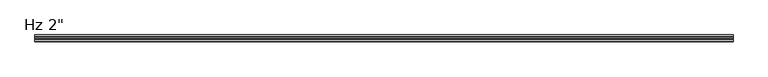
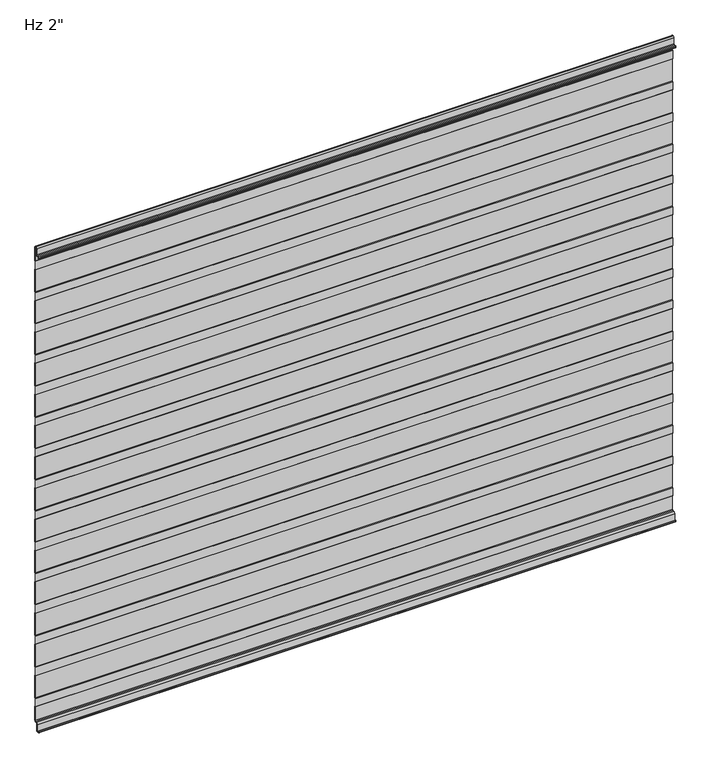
"""IFC4 building model written with IfcOpenShell, lengths in millimetres: plate geometry."""

from ifc_helpers import new_model, si_unit, frame, origin, place, context, project, spatial, polyline, circle_curve, source, transform, mapped, element, save
from ifc_brep_helpers import plane_surface, cylinder_surface, revolved_surface, advanced_brep


def plate_808f4461(model_context):
    return source(origin(), model_context, "Body", "AdvancedBrep", [
        advanced_brep(
        [(-730.0, 0.0, 966.9508592), (-730.0, -1.1911595, 965.8783343), (-730.0, -1.1911595, 946.9802183), (-730.0, 0.0, 945.9076934), (-730.0, 0.0, 891.3282389), (-730.0, -1.1911595, 890.2557141), (-730.0, -1.1911595, 871.357598), (-730.0, 0.0, 870.2850732), (-730.0, 0.0, 815.7056186), (-730.0, -1.1911595, 814.6330938), (-730.0, -1.1911595, 795.7349778), (-730.0, 0.0, 794.6624529), (-730.0, 0.0, 740.0829984), (-730.0, -1.1911595, 739.0104735), (-730.0, -1.1911595, 720.1123575), (-730.0, 0.0, 719.0398327), (-730.0, 0.0, 664.4603781), (-730.0, -1.1911595, 663.3878533), (-730.0, -1.1911595, 644.4897372), (-730.0, 0.0, 643.4172124), (-730.0, 0.0, 588.8377578), (-730.0, -1.1911595, 587.765233), (-730.0, -1.1911595, 568.867117), (-730.0, 0.0, 567.7945921), (-730.0, 0.0, 513.2151376), (-730.0, -1.1911595, 512.1426127), (-730.0, -1.1911595, 493.2444967), (-730.0, 0.0, 492.1719719), (-730.0, 0.0, 437.5925173), (-730.0, -1.1911595, 436.5199925), (-730.0, -1.1911595, 417.6218764), (-730.0, 0.0, 416.5493516), (-730.0, 0.0, 361.9698971), (-730.0, -1.1911595, 360.8973722), (-730.0, -1.1911595, 341.9992562), (-730.0, 0.0, 340.9267313), (-730.0, 0.0, 286.3472768), (-730.0, -1.1911595, 285.274752), (-730.0, -1.1911595, 266.3766359), (-730.0, 0.0, 265.3041111), (-730.0, 0.0, 210.7246565), (-730.0, -1.1911595, 209.6521317), (-730.0, -1.1911595, 190.7540156), (-730.0, 0.0, 189.6814908), (-730.0, 0.0, 135.1020363), (-730.0, -1.1911595, 134.0295114), (-730.0, -1.1911595, 115.1313954), (-730.0, 0.0, 114.0588705), (-730.0, 0.0, 59.479416), (-730.0, -1.1911595, 58.4068912), (-730.0, -1.1911595, 39.5087751), (-730.0, 0.0, 38.4362503), (-730.0, 0.0, 5.8272193), (-730.0, -2.9772904, 2.8499526), (-730.0, -5.2691742, 2.8499526), (-730.0, -8.2464427, -0.1273159), (-730.0, -8.2464427, -15.7237419), (-730.0, -9.8343193, -17.3116185), (-730.0, -12.905868, -17.3116185), (-730.0, -14.4937445, -15.7237419), (-730.0, -14.4937445, -13.3687064), (-730.0, -13.4937445, -13.3687064), (-730.0, -13.4937445, -15.7237419), (-730.0, -12.905868, -16.3116185), (-730.0, -9.8343193, -16.3116185), (-730.0, -9.2464427, -15.7237419), (-730.0, -9.2464427, -0.1273159), (-730.0, -5.2691742, 3.8499526), (-730.0, -2.9772904, 3.8499526), (-730.0, -1.0000218, 5.82722), (-730.0, -1.0, 37.993811), (-730.0, -2.1911595, 39.0663358), (-730.0, -2.1911595, 58.8493305), (-730.0, -1.0, 59.9218553), (-730.0, -1.0, 113.6164312), (-730.0, -2.1911595, 114.6889561), (-730.0, -2.1911595, 134.4719507), (-730.0, -1.0, 135.5444756), (-730.0, -1.0, 189.2390515), (-730.0, -2.1911595, 190.3115763), (-730.0, -2.1911595, 210.094571), (-730.0, -1.0, 211.1670958), (-730.0, -1.0, 264.8616718), (-730.0, -2.1911595, 265.9341966), (-730.0, -2.1911595, 285.7171913), (-730.0, -1.0, 286.7897161), (-730.0, -1.0, 340.484292), (-730.0, -2.1911595, 341.5568169), (-730.0, -2.1911595, 361.3398115), (-730.0, -1.0, 362.4123364), (-730.0, -1.0, 416.1069123), (-730.0, -2.1911595, 417.1794371), (-730.0, -2.1911595, 436.9624318), (-730.0, -1.0, 438.0349566), (-730.0, -1.0, 491.7295325), (-730.0, -2.1911595, 492.8020574), (-730.0, -2.1911595, 512.5850521), (-730.0, -1.0, 513.6575769), (-730.0, -1.0, 567.3521528), (-730.0, -2.1911595, 568.4246776), (-730.0, -2.1911595, 588.2076723), (-730.0, -1.0, 589.2801972), (-730.0, -1.0, 642.9747731), (-730.0, -2.1911595, 644.0472979), (-730.0, -2.1911595, 663.8302926), (-730.0, -1.0, 664.9028174), (-730.0, -1.0, 718.5973933), (-730.0, -2.1911595, 719.6699182), (-730.0, -2.1911595, 739.4529129), (-730.0, -1.0, 740.5254377), (-730.0, -1.0, 794.2200136), (-730.0, -2.1911595, 795.2925384), (-730.0, -2.1911595, 815.0755331), (-730.0, -1.0, 816.148058), (-730.0, -1.0, 869.8426339), (-730.0, -2.1911595, 870.9151587), (-730.0, -2.1911595, 890.6981534), (-730.0, -1.0, 891.7706782), (-730.0, -1.0, 945.4652541), (-730.0, -2.1911595, 946.537779), (-730.0, -2.1911595, 966.3207736), (-730.0, -1.0, 967.3932985), (-730.0, -1.0, 1021.0878744), (-730.0, -2.1911595, 1022.1603992), (-730.0, -2.1911595, 1041.9433939), (-730.0, -1.0, 1043.0159187), (-730.0, -1.0, 1096.7104947), (-730.0, -2.1911595, 1097.7830195), (-730.0, -2.1911595, 1117.5660142), (-730.0, -1.0000044, 1118.6385351), (-730.0, -1.0000044, 1150.8100652), (-730.0, -2.9772729, 1152.7873337), (-730.0, -4.0193715, 1152.7873337), (-730.0, -5.99664, 1150.8100652), (-730.0, -5.99664, 1136.6216801), (-730.0, -8.5845166, 1134.0338036), (-730.0, -12.9049347, 1134.0338037), (-730.0, -13.4939282, 1133.4253365), (-730.0, -13.4939282, 1131.0482432), (-730.0, -14.4934021, 1131.0482432), (-730.0, -14.4934021, 1133.3929042), (-730.0, -12.9049347, 1135.0338037), (-730.0, -8.5845166, 1135.0338036), (-730.0, -6.99664, 1136.6216801), (-730.0, -6.99664, 1150.8100652), (-730.0, -4.0193715, 1153.7873337), (-730.0, -2.9772729, 1153.7873337), (-730.0, -4.4e-06, 1150.8100652), (-730.0, -4.4e-06, 1118.1960958), (-730.0, -1.1911595, 1117.1235749), (-730.0, -1.1911595, 1098.2254588), (-730.0, 0.0, 1097.152934), (-730.0, 0.0, 1042.5734794), (-730.0, -1.1911595, 1041.5009546), (-730.0, -1.1911595, 1022.6028385), (-730.0, 0.0, 1021.5303137), (730.0, 0.0, 966.9508592), (730.0, 0.0, 1021.5303137), (730.0, -1.1911595, 1022.6028385), (730.0, -1.1911595, 1041.5009546), (730.0, 0.0, 1042.5734794), (730.0, 0.0, 1097.152934), (730.0, -1.1911595, 1098.2254588), (730.0, -1.1911595, 1117.1235749), (730.0, -4.4e-06, 1118.1960958), (730.0, -4.4e-06, 1150.8100652), (730.0, -2.9772729, 1153.7873337), (730.0, -4.0193715, 1153.7873337), (730.0, -6.99664, 1150.8100652), (730.0, -6.99664, 1136.6216801), (730.0, -8.5845166, 1135.0338036), (730.0, -12.9049347, 1135.0338036), (730.0, -14.4934021, 1133.3929042), (730.0, -14.4934021, 1131.0482432), (730.0, -13.4939282, 1131.0482432), (730.0, -13.4939282, 1133.4253365), (730.0, -12.9049347, 1134.0338037), (730.0, -8.5845166, 1134.0338037), (730.0, -5.99664, 1136.6216801), (730.0, -5.99664, 1150.8100652), (730.0, -4.0193715, 1152.7873337), (730.0, -2.9772729, 1152.7873337), (730.0, -1.0000044, 1150.8100652), (730.0, -1.0000044, 1118.6385351), (730.0, -2.1911595, 1117.5660142), (730.0, -2.1911595, 1097.7830195), (730.0, -1.0, 1096.7104947), (730.0, -1.0, 1043.0159187), (730.0, -2.1911595, 1041.9433939), (730.0, -2.1911595, 1022.1603992), (730.0, -1.0, 1021.0878744), (730.0, -1.0, 967.3932985), (730.0, -2.1911595, 966.3207736), (730.0, -2.1911595, 946.537779), (730.0, -1.0, 945.4652541), (730.0, -1.0, 891.7706782), (730.0, -2.1911595, 890.6981534), (730.0, -2.1911595, 870.9151587), (730.0, -1.0, 869.8426339), (730.0, -1.0, 816.148058), (730.0, -2.1911595, 815.0755331), (730.0, -2.1911595, 795.2925384), (730.0, -1.0, 794.2200136), (730.0, -1.0, 740.5254377), (730.0, -2.1911595, 739.4529129), (730.0, -2.1911595, 719.6699182), (730.0, -1.0, 718.5973933), (730.0, -1.0, 664.9028174), (730.0, -2.1911595, 663.8302926), (730.0, -2.1911595, 644.0472979), (730.0, -1.0, 642.9747731), (730.0, -1.0, 589.2801972), (730.0, -2.1911595, 588.2076723), (730.0, -2.1911595, 568.4246776), (730.0, -1.0, 567.3521528), (730.0, -1.0, 513.6575769), (730.0, -2.1911595, 512.5850521), (730.0, -2.1911595, 492.8020574), (730.0, -1.0, 491.7295325), (730.0, -1.0, 438.0349566), (730.0, -2.1911595, 436.9624318), (730.0, -2.1911595, 417.1794371), (730.0, -1.0, 416.1069123), (730.0, -1.0, 362.4123364), (730.0, -2.1911595, 361.3398115), (730.0, -2.1911595, 341.5568169), (730.0, -1.0, 340.484292), (730.0, -1.0, 286.7897161), (730.0, -2.1911595, 285.7171913), (730.0, -2.1911595, 265.9341966), (730.0, -1.0, 264.8616718), (730.0, -1.0, 211.1670958), (730.0, -2.1911595, 210.094571), (730.0, -2.1911595, 190.3115763), (730.0, -1.0, 189.2390515), (730.0, -1.0, 135.5444756), (730.0, -2.1911595, 134.4719507), (730.0, -2.1911595, 114.6889561), (730.0, -1.0, 113.6164312), (730.0, -1.0, 59.9218553), (730.0, -2.1911595, 58.8493305), (730.0, -2.1911595, 39.0663358), (730.0, -1.0, 37.993811), (730.0, -1.0, 5.82722), (730.0, -2.9772904, 3.8499526), (730.0, -5.2691742, 3.8499526), (730.0, -9.2464427, -0.1273159), (730.0, -9.2464427, -15.7237419), (730.0, -9.8343193, -16.3116185), (730.0, -12.905868, -16.3116185), (730.0, -13.4937445, -15.7237419), (730.0, -13.4937445, -13.3687064), (730.0, -14.4937445, -13.3687064), (730.0, -14.4937445, -15.7237419), (730.0, -12.905868, -17.3116185), (730.0, -9.8343193, -17.3116185), (730.0, -8.2464427, -15.7237419), (730.0, -8.2464427, -0.1273159), (730.0, -5.2691742, 2.8499526), (730.0, -2.9772904, 2.8499526), (730.0, -2.18e-05, 5.8272193), (730.0, 0.0, 38.4362503), (730.0, -1.1911595, 39.5087751), (730.0, -1.1911595, 58.4068912), (730.0, 0.0, 59.479416), (730.0, 0.0, 114.0588705), (730.0, -1.1911595, 115.1313954), (730.0, -1.1911595, 134.0295114), (730.0, 0.0, 135.1020363), (730.0, 0.0, 189.6814908), (730.0, -1.1911595, 190.7540156), (730.0, -1.1911595, 209.6521317), (730.0, 0.0, 210.7246565), (730.0, 0.0, 265.3041111), (730.0, -1.1911595, 266.3766359), (730.0, -1.1911595, 285.274752), (730.0, 0.0, 286.3472768), (730.0, 0.0, 340.9267313), (730.0, -1.1911595, 341.9992562), (730.0, -1.1911595, 360.8973722), (730.0, 0.0, 361.9698971), (730.0, 0.0, 416.5493516), (730.0, -1.1911595, 417.6218764), (730.0, -1.1911595, 436.5199925), (730.0, 0.0, 437.5925173), (730.0, 0.0, 492.1719719), (730.0, -1.1911595, 493.2444967), (730.0, -1.1911595, 512.1426127), (730.0, 0.0, 513.2151376), (730.0, 0.0, 567.7945921), (730.0, -1.1911595, 568.867117), (730.0, -1.1911595, 587.765233), (730.0, 0.0, 588.8377578), (730.0, 0.0, 643.4172124), (730.0, -1.1911595, 644.4897372), (730.0, -1.1911595, 663.3878533), (730.0, 0.0, 664.4603781), (730.0, 0.0, 719.0398327), (730.0, -1.1911595, 720.1123575), (730.0, -1.1911595, 739.0104735), (730.0, 0.0, 740.0829984), (730.0, 0.0, 794.6624529), (730.0, -1.1911595, 795.7349778), (730.0, -1.1911595, 814.6330938), (730.0, 0.0, 815.7056186), (730.0, 0.0, 870.2850732), (730.0, -1.1911595, 871.357598), (730.0, -1.1911595, 890.2557141), (730.0, 0.0, 891.3282389), (730.0, 0.0, 945.9076934), (730.0, -1.1911595, 946.9802183), (730.0, -1.1911595, 965.8783343)],
        [
            (0, 1),
            (1, 2),
            (2, 3),
            (3, 4),
            (4, 5),
            (5, 6),
            (6, 7),
            (7, 8),
            (8, 9),
            (9, 10),
            (10, 11),
            (11, 12),
            (12, 13),
            (13, 14),
            (14, 15),
            (15, 16),
            (16, 17),
            (17, 18),
            (18, 19),
            (19, 20),
            (20, 21),
            (21, 22),
            (22, 23),
            (23, 24),
            (24, 25),
            (25, 26),
            (26, 27),
            (27, 28),
            (28, 29),
            (29, 30),
            (30, 31),
            (31, 32),
            (32, 33),
            (33, 34),
            (34, 35),
            (35, 36),
            (36, 37),
            (37, 38),
            (38, 39),
            (39, 40),
            (40, 41),
            (41, 42),
            (42, 43),
            (43, 44),
            (44, 45),
            (45, 46),
            (46, 47),
            (47, 48),
            (48, 49),
            (49, 50),
            (50, 51),
            (51, 52),
            (52, 53, circle_curve(frame((-730.0, -2.9772904, 5.8272211), z_axis=(-1.0, 0.0, 0.0), x_axis=(0.0, 1.0, 0.0)), 2.9772685)),
            (53, 54),
            (54, 55, circle_curve(frame((-730.0, -5.2691742, -0.1273159), z_axis=(1.0, 0.0, 0.0), x_axis=(0.0, 1.0, 0.0)), 2.9772685)),
            (55, 56),
            (56, 57, circle_curve(frame((-730.0, -9.8343193, -15.7237419), z_axis=(-1.0, 0.0, 0.0), x_axis=(0.0, 1.0, 0.0)), 1.5878765)),
            (57, 58),
            (58, 59, circle_curve(frame((-730.0, -12.905868, -15.7237419), z_axis=(-1.0, 0.0, 0.0), x_axis=(0.0, 1.0, 0.0)), 1.5878765)),
            (59, 60),
            (60, 61),
            (61, 62),
            (62, 63, circle_curve(frame((-730.0, -12.905868, -15.7237419), z_axis=(1.0, 0.0, 0.0), x_axis=(0.0, 1.0, 0.0)), 0.5878765)),
            (63, 64),
            (64, 65, circle_curve(frame((-730.0, -9.8343193, -15.7237419), z_axis=(1.0, 0.0, 0.0), x_axis=(0.0, 1.0, 0.0)), 0.5878765)),
            (65, 66),
            (66, 67, circle_curve(frame((-730.0, -5.2691742, -0.1273159), z_axis=(-1.0, 0.0, 0.0), x_axis=(0.0, 1.0, 0.0)), 3.9772685)),
            (67, 68),
            (68, 69, circle_curve(frame((-730.0, -2.9772904, 5.8272212), z_axis=(1.0, 0.0, 0.0), x_axis=(0.0, 1.0, 0.0)), 1.9772685)),
            (69, 70),
            (70, 71),
            (71, 72),
            (72, 73),
            (73, 74),
            (74, 75),
            (75, 76),
            (76, 77),
            (77, 78),
            (78, 79),
            (79, 80),
            (80, 81),
            (81, 82),
            (82, 83),
            (83, 84),
            (84, 85),
            (85, 86),
            (86, 87),
            (87, 88),
            (88, 89),
            (89, 90),
            (90, 91),
            (91, 92),
            (92, 93),
            (93, 94),
            (94, 95),
            (95, 96),
            (96, 97),
            (97, 98),
            (98, 99),
            (99, 100),
            (100, 101),
            (101, 102),
            (102, 103),
            (103, 104),
            (104, 105),
            (105, 106),
            (106, 107),
            (107, 108),
            (108, 109),
            (109, 110),
            (110, 111),
            (111, 112),
            (112, 113),
            (113, 114),
            (114, 115),
            (115, 116),
            (116, 117),
            (117, 118),
            (118, 119),
            (119, 120),
            (120, 121),
            (121, 122),
            (122, 123),
            (123, 124),
            (124, 125),
            (125, 126),
            (126, 127),
            (127, 128),
            (128, 129),
            (129, 130),
            (130, 131, circle_curve(frame((-730.0, -2.9772729, 1150.8100652), z_axis=(1.0, 0.0, 0.0), x_axis=(0.0, 1.0, 0.0)), 1.9772685)),
            (131, 132),
            (132, 133, circle_curve(frame((-730.0, -4.0193715, 1150.8100652), z_axis=(1.0, 0.0, 0.0), x_axis=(0.0, 1.0, 0.0)), 1.9772685)),
            (133, 134),
            (134, 135, circle_curve(frame((-730.0, -8.5845166, 1136.6216801), z_axis=(-1.0, 0.0, 0.0), x_axis=(0.0, 1.0, 0.0)), 2.5878765)),
            (135, 136),
            (136, 137, circle_curve(frame((-730.0, -12.9049347, 1133.4444985), z_axis=(1.0, 0.0, 0.0), x_axis=(0.0, 1.0, 0.0)), 0.5893052)),
            (137, 138),
            (138, 139),
            (139, 140),
            (140, 141, circle_curve(frame((-730.0, -12.9049347, 1133.4444985), z_axis=(-1.0, 0.0, 0.0), x_axis=(0.0, 1.0, 0.0)), 1.5893052)),
            (141, 142),
            (142, 143, circle_curve(frame((-730.0, -8.5845166, 1136.6216801), z_axis=(1.0, 0.0, 0.0), x_axis=(0.0, 1.0, 0.0)), 1.5878765)),
            (143, 144),
            (144, 145, circle_curve(frame((-730.0, -4.0193715, 1150.8100652), z_axis=(-1.0, 0.0, 0.0), x_axis=(0.0, 1.0, 0.0)), 2.9772685)),
            (145, 146),
            (146, 147, circle_curve(frame((-730.0, -2.9772729, 1150.8100652), z_axis=(-1.0, 0.0, 0.0), x_axis=(0.0, 1.0, 0.0)), 2.9772685)),
            (147, 148),
            (148, 149),
            (149, 150),
            (150, 151),
            (151, 152),
            (152, 153),
            (153, 154),
            (154, 155),
            (155, 0),
            (156, 157),
            (157, 158),
            (158, 159),
            (159, 160),
            (160, 161),
            (161, 162),
            (162, 163),
            (163, 164),
            (164, 165),
            (165, 166, circle_curve(frame((730.0, -2.9772729, 1150.8100652), z_axis=(1.0, 0.0, 0.0), x_axis=(0.0, 1.0, 0.0)), 2.9772685)),
            (166, 167),
            (167, 168, circle_curve(frame((730.0, -4.0193715, 1150.8100652), z_axis=(1.0, 0.0, 0.0), x_axis=(0.0, 1.0, 0.0)), 2.9772685)),
            (168, 169),
            (169, 170, circle_curve(frame((730.0, -8.5845166, 1136.6216801), z_axis=(-1.0, 0.0, 0.0), x_axis=(0.0, 1.0, 0.0)), 1.5878765)),
            (170, 171),
            (171, 172, circle_curve(frame((730.0, -12.9049347, 1133.4444985), z_axis=(1.0, 0.0, 0.0), x_axis=(0.0, 1.0, 0.0)), 1.5893052)),
            (172, 173),
            (173, 174),
            (174, 175),
            (175, 176, circle_curve(frame((730.0, -12.9049347, 1133.4444985), z_axis=(-1.0, 0.0, 0.0), x_axis=(0.0, 1.0, 0.0)), 0.5893052)),
            (176, 177),
            (177, 178, circle_curve(frame((730.0, -8.5845166, 1136.6216801), z_axis=(1.0, 0.0, 0.0), x_axis=(0.0, 1.0, 0.0)), 2.5878765)),
            (178, 179),
            (179, 180, circle_curve(frame((730.0, -4.0193715, 1150.8100652), z_axis=(-1.0, 0.0, 0.0), x_axis=(0.0, 1.0, 0.0)), 1.9772685)),
            (180, 181),
            (181, 182, circle_curve(frame((730.0, -2.9772729, 1150.8100652), z_axis=(-1.0, 0.0, 0.0), x_axis=(0.0, 1.0, 0.0)), 1.9772685)),
            (182, 183),
            (183, 184),
            (184, 185),
            (185, 186),
            (186, 187),
            (187, 188),
            (188, 189),
            (189, 190),
            (190, 191),
            (191, 192),
            (192, 193),
            (193, 194),
            (194, 195),
            (195, 196),
            (196, 197),
            (197, 198),
            (198, 199),
            (199, 200),
            (200, 201),
            (201, 202),
            (202, 203),
            (203, 204),
            (204, 205),
            (205, 206),
            (206, 207),
            (207, 208),
            (208, 209),
            (209, 210),
            (210, 211),
            (211, 212),
            (212, 213),
            (213, 214),
            (214, 215),
            (215, 216),
            (216, 217),
            (217, 218),
            (218, 219),
            (219, 220),
            (220, 221),
            (221, 222),
            (222, 223),
            (223, 224),
            (224, 225),
            (225, 226),
            (226, 227),
            (227, 228),
            (228, 229),
            (229, 230),
            (230, 231),
            (231, 232),
            (232, 233),
            (233, 234),
            (234, 235),
            (235, 236),
            (236, 237),
            (237, 238),
            (238, 239),
            (239, 240),
            (240, 241),
            (241, 242),
            (242, 243),
            (243, 244, circle_curve(frame((730.0, -2.9772904, 5.8272212), z_axis=(-1.0, 0.0, 0.0), x_axis=(0.0, 1.0, 0.0)), 1.9772685)),
            (244, 245),
            (245, 246, circle_curve(frame((730.0, -5.2691742, -0.1273159), z_axis=(1.0, 0.0, 0.0), x_axis=(0.0, 1.0, 0.0)), 3.9772685)),
            (246, 247),
            (247, 248, circle_curve(frame((730.0, -9.8343193, -15.7237419), z_axis=(-1.0, 0.0, 0.0), x_axis=(0.0, 1.0, 0.0)), 0.5878765)),
            (248, 249),
            (249, 250, circle_curve(frame((730.0, -12.905868, -15.7237419), z_axis=(-1.0, 0.0, 0.0), x_axis=(0.0, 1.0, 0.0)), 0.5878765)),
            (250, 251),
            (251, 252),
            (252, 253),
            (253, 254, circle_curve(frame((730.0, -12.905868, -15.7237419), z_axis=(1.0, 0.0, 0.0), x_axis=(0.0, 1.0, 0.0)), 1.5878765)),
            (254, 255),
            (255, 256, circle_curve(frame((730.0, -9.8343193, -15.7237419), z_axis=(1.0, 0.0, 0.0), x_axis=(0.0, 1.0, 0.0)), 1.5878765)),
            (256, 257),
            (257, 258, circle_curve(frame((730.0, -5.2691742, -0.1273159), z_axis=(-1.0, 0.0, 0.0), x_axis=(0.0, 1.0, 0.0)), 2.9772685)),
            (258, 259),
            (259, 260, circle_curve(frame((730.0, -2.9772904, 5.8272211), z_axis=(1.0, 0.0, 0.0), x_axis=(0.0, 1.0, 0.0)), 2.9772685)),
            (260, 261),
            (261, 262),
            (262, 263),
            (263, 264),
            (264, 265),
            (265, 266),
            (266, 267),
            (267, 268),
            (268, 269),
            (269, 270),
            (270, 271),
            (271, 272),
            (272, 273),
            (273, 274),
            (274, 275),
            (275, 276),
            (276, 277),
            (277, 278),
            (278, 279),
            (279, 280),
            (280, 281),
            (281, 282),
            (282, 283),
            (283, 284),
            (284, 285),
            (285, 286),
            (286, 287),
            (287, 288),
            (288, 289),
            (289, 290),
            (290, 291),
            (291, 292),
            (292, 293),
            (293, 294),
            (294, 295),
            (295, 296),
            (296, 297),
            (297, 298),
            (298, 299),
            (299, 300),
            (300, 301),
            (301, 302),
            (302, 303),
            (303, 304),
            (304, 305),
            (305, 306),
            (306, 307),
            (307, 308),
            (308, 309),
            (309, 310),
            (310, 311),
            (311, 156),
            (155, 157),
            (156, 0),
            (154, 158),
            (153, 159),
            (152, 160),
            (151, 161),
            (150, 162),
            (149, 163),
            (148, 164),
            (147, 165),
            (146, 166),
            (145, 167),
            (144, 168),
            (143, 169),
            (142, 170),
            (141, 171),
            (140, 172),
            (139, 173),
            (138, 174),
            (137, 175),
            (136, 176),
            (135, 177),
            (134, 178),
            (133, 179),
            (132, 180),
            (131, 181),
            (130, 182),
            (129, 183),
            (128, 184),
            (127, 185),
            (126, 186),
            (125, 187),
            (124, 188),
            (123, 189),
            (122, 190),
            (121, 191),
            (120, 192),
            (119, 193),
            (118, 194),
            (117, 195),
            (116, 196),
            (115, 197),
            (114, 198),
            (113, 199),
            (112, 200),
            (111, 201),
            (110, 202),
            (109, 203),
            (108, 204),
            (107, 205),
            (106, 206),
            (105, 207),
            (104, 208),
            (103, 209),
            (102, 210),
            (101, 211),
            (100, 212),
            (99, 213),
            (98, 214),
            (97, 215),
            (96, 216),
            (95, 217),
            (94, 218),
            (93, 219),
            (92, 220),
            (91, 221),
            (90, 222),
            (89, 223),
            (88, 224),
            (87, 225),
            (86, 226),
            (85, 227),
            (84, 228),
            (83, 229),
            (82, 230),
            (81, 231),
            (80, 232),
            (79, 233),
            (78, 234),
            (77, 235),
            (76, 236),
            (75, 237),
            (74, 238),
            (73, 239),
            (72, 240),
            (71, 241),
            (70, 242),
            (69, 243),
            (68, 244),
            (67, 245),
            (66, 246),
            (65, 247),
            (64, 248),
            (63, 249),
            (62, 250),
            (61, 251),
            (60, 252),
            (59, 253),
            (58, 254),
            (57, 255),
            (56, 256),
            (55, 257),
            (54, 258),
            (53, 259),
            (52, 260),
            (51, 261),
            (50, 262),
            (49, 263),
            (48, 264),
            (47, 265),
            (46, 266),
            (45, 267),
            (44, 268),
            (43, 269),
            (42, 270),
            (41, 271),
            (40, 272),
            (39, 273),
            (38, 274),
            (37, 275),
            (36, 276),
            (35, 277),
            (34, 278),
            (33, 279),
            (32, 280),
            (31, 281),
            (30, 282),
            (29, 283),
            (28, 284),
            (27, 285),
            (26, 286),
            (25, 287),
            (24, 288),
            (23, 289),
            (22, 290),
            (21, 291),
            (20, 292),
            (19, 293),
            (18, 294),
            (17, 295),
            (16, 296),
            (15, 297),
            (14, 298),
            (13, 299),
            (12, 300),
            (11, 301),
            (10, 302),
            (9, 303),
            (8, 304),
            (7, 305),
            (6, 306),
            (5, 307),
            (4, 308),
            (3, 309),
            (2, 310),
            (1, 311),
        ],
        [
            plane_surface(frame((-730.0, 0.0, 576.2625), z_axis=(-1.0, 0.0, 0.0), x_axis=(0.0, 1.0, 0.0))),
            plane_surface(frame((730.0, 0.0, 576.2625), z_axis=(1.0, 0.0, 0.0), x_axis=(0.0, 1.0, 0.0))),
            plane_surface(frame((-730.0, 0.0, 966.9508592), z_axis=(0.0, 1.0, 0.0), x_axis=(1.0, 0.0, 0.0))),
            plane_surface(frame((-730.0, 0.0, 1021.5303137), z_axis=(0.0, 0.6691306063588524, 0.7431448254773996), x_axis=(1.0, 0.0, 0.0))),
            plane_surface(frame((-730.0, -1.1911595, 1022.6028385), z_axis=(0.0, 1.0, 0.0), x_axis=(1.0, 0.0, 0.0))),
            plane_surface(frame((-730.0, -1.1911595, 1041.5009546), z_axis=(0.0, 0.6691306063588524, -0.7431448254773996), x_axis=(1.0, 0.0, 0.0))),
            plane_surface(frame((-730.0, 0.0, 1042.5734794), z_axis=(0.0, 1.0, 0.0), x_axis=(1.0, 0.0, 0.0))),
            plane_surface(frame((-730.0, 0.0, 1097.152934), z_axis=(0.0, 0.6691306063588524, 0.7431448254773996), x_axis=(1.0, 0.0, 0.0))),
            plane_surface(frame((-730.0, -1.1911595, 1098.2254588), z_axis=(0.0, 1.0, 0.0), x_axis=(1.0, 0.0, 0.0))),
            plane_surface(frame((-730.0, -1.1911595, 1117.1235749), z_axis=(0.0, 0.6691306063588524, -0.7431448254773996), x_axis=(1.0, 0.0, 0.0))),
            plane_surface(frame((-730.0, -4.4e-06, 1118.1960958), z_axis=(0.0, 1.0, 0.0), x_axis=(1.0, 0.0, 0.0))),
            cylinder_surface(frame((-730.0, -2.9772729, 1150.8100652), z_axis=(-1.0, 0.0, 0.0), x_axis=(0.0, 1.0, 0.0)), 2.9772685),
            plane_surface(frame((-730.0, -2.9772729, 1153.7873337), z_axis=(0.0, 0.0, 1.0), x_axis=(1.0, 0.0, 0.0))),
            cylinder_surface(frame((-730.0, -4.0193715, 1150.8100652), z_axis=(-1.0, 0.0, 0.0), x_axis=(0.0, 1.0, 0.0)), 2.9772685),
            plane_surface(frame((-730.0, -6.99664, 1150.8100652), z_axis=(0.0, -1.0, 0.0), x_axis=(1.0, 0.0, 0.0))),
            revolved_surface(polyline([(730.0, -6.9966401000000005, 1136.6216801), (-730.0, -6.9966401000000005, 1136.6216801)]), (-730.0, -8.5845166, 1136.6216801), (1.0, 0.0, 0.0)),
            plane_surface(frame((-730.0, -8.5845166, 1135.0338036), z_axis=(0.0, 0.0, 1.0), x_axis=(1.0, 0.0, 0.0))),
            cylinder_surface(frame((-730.0, -12.9049347, 1133.4444985), z_axis=(-1.0, 0.0, 0.0), x_axis=(0.0, 1.0, 0.0)), 1.5893052),
            plane_surface(frame((-730.0, -14.4934021, 1133.3929042), z_axis=(0.0, -1.0, 0.0), x_axis=(1.0, 0.0, 0.0))),
            plane_surface(frame((-730.0, -14.4934021, 1131.0482432), z_axis=(0.0, 0.0, -1.0), x_axis=(1.0, 0.0, 0.0))),
            plane_surface(frame((-730.0, -13.4939282, 1131.0482432), z_axis=(0.0, 1.0, 0.0), x_axis=(1.0, 0.0, 0.0))),
            revolved_surface(polyline([(730.0, -12.3156295, 1133.4444985), (-730.0, -12.3156295, 1133.4444985)]), (-730.0, -12.9049347, 1133.4444985), (1.0, 0.0, 0.0)),
            plane_surface(frame((-730.0, -12.9049347, 1134.0338037), z_axis=(0.0, 0.0, -1.0), x_axis=(1.0, 0.0, 0.0))),
            cylinder_surface(frame((-730.0, -8.5845166, 1136.6216801), z_axis=(-1.0, 0.0, 0.0), x_axis=(0.0, 1.0, 0.0)), 2.5878765),
            plane_surface(frame((-730.0, -5.99664, 1136.6216801), z_axis=(0.0, 1.0, 0.0), x_axis=(1.0, 0.0, 0.0))),
            revolved_surface(polyline([(730.0, -2.042103, 1150.8100652), (-730.0, -2.042103, 1150.8100652)]), (-730.0, -4.0193715, 1150.8100652), (1.0, 0.0, 0.0)),
            plane_surface(frame((-730.0, -4.0193715, 1152.7873337), z_axis=(0.0, 0.0, -1.0), x_axis=(1.0, 0.0, 0.0))),
            revolved_surface(polyline([(730.0, -1.0000044, 1150.8100652), (-730.0, -1.0000044, 1150.8100652)]), (-730.0, -2.9772729, 1150.8100652), (1.0, 0.0, 0.0)),
            plane_surface(frame((-730.0, -1.0000044, 1150.8100652), z_axis=(0.0, -1.0, 0.0), x_axis=(1.0, 0.0, 0.0))),
            plane_surface(frame((-730.0, -1.0000044, 1118.6385351), z_axis=(0.0, -0.6691306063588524, 0.7431448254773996), x_axis=(1.0, 0.0, 0.0))),
            plane_surface(frame((-730.0, -2.1911595, 1117.5660142), z_axis=(0.0, -1.0, 0.0), x_axis=(1.0, 0.0, 0.0))),
            plane_surface(frame((-730.0, -2.1911595, 1097.7830195), z_axis=(0.0, -0.6691306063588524, -0.7431448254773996), x_axis=(1.0, 0.0, 0.0))),
            plane_surface(frame((-730.0, -1.0, 1096.7104947), z_axis=(0.0, -1.0, 0.0), x_axis=(1.0, 0.0, 0.0))),
            plane_surface(frame((-730.0, -1.0, 1043.0159187), z_axis=(0.0, -0.6691306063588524, 0.7431448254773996), x_axis=(1.0, 0.0, 0.0))),
            plane_surface(frame((-730.0, -2.1911595, 1041.9433939), z_axis=(0.0, -1.0, 0.0), x_axis=(1.0, 0.0, 0.0))),
            plane_surface(frame((-730.0, -2.1911595, 1022.1603992), z_axis=(0.0, -0.6691306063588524, -0.7431448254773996), x_axis=(1.0, 0.0, 0.0))),
            plane_surface(frame((-730.0, -1.0, 1021.0878744), z_axis=(0.0, -1.0, 0.0), x_axis=(1.0, 0.0, 0.0))),
            plane_surface(frame((-730.0, -1.0, 967.3932985), z_axis=(0.0, -0.6691306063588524, 0.7431448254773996), x_axis=(1.0, 0.0, 0.0))),
            plane_surface(frame((-730.0, -2.1911595, 966.3207736), z_axis=(0.0, -1.0, 0.0), x_axis=(1.0, 0.0, 0.0))),
            plane_surface(frame((-730.0, -2.1911595, 946.537779), z_axis=(0.0, -0.6691306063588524, -0.7431448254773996), x_axis=(1.0, 0.0, 0.0))),
            plane_surface(frame((-730.0, -1.0, 945.4652541), z_axis=(0.0, -1.0, 0.0), x_axis=(1.0, 0.0, 0.0))),
            plane_surface(frame((-730.0, -1.0, 891.7706782), z_axis=(0.0, -0.6691306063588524, 0.7431448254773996), x_axis=(1.0, 0.0, 0.0))),
            plane_surface(frame((-730.0, -2.1911595, 890.6981534), z_axis=(0.0, -1.0, 0.0), x_axis=(1.0, 0.0, 0.0))),
            plane_surface(frame((-730.0, -2.1911595, 870.9151587), z_axis=(0.0, -0.6691306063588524, -0.7431448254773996), x_axis=(1.0, 0.0, 0.0))),
            plane_surface(frame((-730.0, -1.0, 869.8426339), z_axis=(0.0, -1.0, 0.0), x_axis=(1.0, 0.0, 0.0))),
            plane_surface(frame((-730.0, -1.0, 816.148058), z_axis=(0.0, -0.6691306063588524, 0.7431448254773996), x_axis=(1.0, 0.0, 0.0))),
            plane_surface(frame((-730.0, -2.1911595, 815.0755331), z_axis=(0.0, -1.0, 0.0), x_axis=(1.0, 0.0, 0.0))),
            plane_surface(frame((-730.0, -2.1911595, 795.2925384), z_axis=(0.0, -0.6691306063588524, -0.7431448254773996), x_axis=(1.0, 0.0, 0.0))),
            plane_surface(frame((-730.0, -1.0, 794.2200136), z_axis=(0.0, -1.0, 0.0), x_axis=(1.0, 0.0, 0.0))),
            plane_surface(frame((-730.0, -1.0, 740.5254377), z_axis=(0.0, -0.6691306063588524, 0.7431448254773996), x_axis=(1.0, 0.0, 0.0))),
            plane_surface(frame((-730.0, -2.1911595, 739.4529129), z_axis=(0.0, -1.0, 0.0), x_axis=(1.0, 0.0, 0.0))),
            plane_surface(frame((-730.0, -2.1911595, 719.6699182), z_axis=(0.0, -0.6691306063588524, -0.7431448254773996), x_axis=(1.0, 0.0, 0.0))),
            plane_surface(frame((-730.0, -1.0, 718.5973933), z_axis=(0.0, -1.0, 0.0), x_axis=(1.0, 0.0, 0.0))),
            plane_surface(frame((-730.0, -1.0, 664.9028174), z_axis=(0.0, -0.6691306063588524, 0.7431448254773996), x_axis=(1.0, 0.0, 0.0))),
            plane_surface(frame((-730.0, -2.1911595, 663.8302926), z_axis=(0.0, -1.0, 0.0), x_axis=(1.0, 0.0, 0.0))),
            plane_surface(frame((-730.0, -2.1911595, 644.0472979), z_axis=(0.0, -0.6691306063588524, -0.7431448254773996), x_axis=(1.0, 0.0, 0.0))),
            plane_surface(frame((-730.0, -1.0, 642.9747731), z_axis=(0.0, -1.0, 0.0), x_axis=(1.0, 0.0, 0.0))),
            plane_surface(frame((-730.0, -1.0, 589.2801972), z_axis=(0.0, -0.6691306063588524, 0.7431448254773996), x_axis=(1.0, 0.0, 0.0))),
            plane_surface(frame((-730.0, -2.1911595, 588.2076723), z_axis=(0.0, -1.0, 0.0), x_axis=(1.0, 0.0, 0.0))),
            plane_surface(frame((-730.0, -2.1911595, 568.4246776), z_axis=(0.0, -0.6691306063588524, -0.7431448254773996), x_axis=(1.0, 0.0, 0.0))),
            plane_surface(frame((-730.0, -1.0, 567.3521528), z_axis=(0.0, -1.0, 0.0), x_axis=(1.0, 0.0, 0.0))),
            plane_surface(frame((-730.0, -1.0, 513.6575769), z_axis=(0.0, -0.6691306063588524, 0.7431448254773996), x_axis=(1.0, 0.0, 0.0))),
            plane_surface(frame((-730.0, -2.1911595, 512.5850521), z_axis=(0.0, -1.0, 0.0), x_axis=(1.0, 0.0, 0.0))),
            plane_surface(frame((-730.0, -2.1911595, 492.8020574), z_axis=(0.0, -0.6691306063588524, -0.7431448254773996), x_axis=(1.0, 0.0, 0.0))),
            plane_surface(frame((-730.0, -1.0, 491.7295325), z_axis=(0.0, -1.0, 0.0), x_axis=(1.0, 0.0, 0.0))),
            plane_surface(frame((-730.0, -1.0, 438.0349566), z_axis=(0.0, -0.6691306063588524, 0.7431448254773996), x_axis=(1.0, 0.0, 0.0))),
            plane_surface(frame((-730.0, -2.1911595, 436.9624318), z_axis=(0.0, -1.0, 0.0), x_axis=(1.0, 0.0, 0.0))),
            plane_surface(frame((-730.0, -2.1911595, 417.1794371), z_axis=(0.0, -0.6691306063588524, -0.7431448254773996), x_axis=(1.0, 0.0, 0.0))),
            plane_surface(frame((-730.0, -1.0, 416.1069123), z_axis=(0.0, -1.0, 0.0), x_axis=(1.0, 0.0, 0.0))),
            plane_surface(frame((-730.0, -1.0, 362.4123364), z_axis=(0.0, -0.6691306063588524, 0.7431448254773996), x_axis=(1.0, 0.0, 0.0))),
            plane_surface(frame((-730.0, -2.1911595, 361.3398115), z_axis=(0.0, -1.0, 0.0), x_axis=(1.0, 0.0, 0.0))),
            plane_surface(frame((-730.0, -2.1911595, 341.5568169), z_axis=(0.0, -0.6691306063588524, -0.7431448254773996), x_axis=(1.0, 0.0, 0.0))),
            plane_surface(frame((-730.0, -1.0, 340.484292), z_axis=(0.0, -1.0, 0.0), x_axis=(1.0, 0.0, 0.0))),
            plane_surface(frame((-730.0, -1.0, 286.7897161), z_axis=(0.0, -0.6691306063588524, 0.7431448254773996), x_axis=(1.0, 0.0, 0.0))),
            plane_surface(frame((-730.0, -2.1911595, 285.7171913), z_axis=(0.0, -1.0, 0.0), x_axis=(1.0, 0.0, 0.0))),
            plane_surface(frame((-730.0, -2.1911595, 265.9341966), z_axis=(0.0, -0.6691306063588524, -0.7431448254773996), x_axis=(1.0, 0.0, 0.0))),
            plane_surface(frame((-730.0, -1.0, 264.8616718), z_axis=(0.0, -1.0, 0.0), x_axis=(1.0, 0.0, 0.0))),
            plane_surface(frame((-730.0, -1.0, 211.1670958), z_axis=(0.0, -0.6691306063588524, 0.7431448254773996), x_axis=(1.0, 0.0, 0.0))),
            plane_surface(frame((-730.0, -2.1911595, 210.094571), z_axis=(0.0, -1.0, 0.0), x_axis=(1.0, 0.0, 0.0))),
            plane_surface(frame((-730.0, -2.1911595, 190.3115763), z_axis=(0.0, -0.6691306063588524, -0.7431448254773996), x_axis=(1.0, 0.0, 0.0))),
            plane_surface(frame((-730.0, -1.0, 189.2390515), z_axis=(0.0, -1.0, 0.0), x_axis=(1.0, 0.0, 0.0))),
            plane_surface(frame((-730.0, -1.0, 135.5444756), z_axis=(0.0, -0.6691306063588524, 0.7431448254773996), x_axis=(1.0, 0.0, 0.0))),
            plane_surface(frame((-730.0, -2.1911595, 134.4719507), z_axis=(0.0, -1.0, 0.0), x_axis=(1.0, 0.0, 0.0))),
            plane_surface(frame((-730.0, -2.1911595, 114.6889561), z_axis=(0.0, -0.6691306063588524, -0.7431448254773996), x_axis=(1.0, 0.0, 0.0))),
            plane_surface(frame((-730.0, -1.0, 113.6164312), z_axis=(0.0, -1.0, 0.0), x_axis=(1.0, 0.0, 0.0))),
            plane_surface(frame((-730.0, -1.0, 59.9218553), z_axis=(0.0, -0.6691306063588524, 0.7431448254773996), x_axis=(1.0, 0.0, 0.0))),
            plane_surface(frame((-730.0, -2.1911595, 58.8493305), z_axis=(0.0, -1.0, 0.0), x_axis=(1.0, 0.0, 0.0))),
            plane_surface(frame((-730.0, -2.1911595, 39.0663358), z_axis=(0.0, -0.6691306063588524, -0.7431448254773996), x_axis=(1.0, 0.0, 0.0))),
            plane_surface(frame((-730.0, -1.0, 37.993811), z_axis=(0.0, -1.0, 0.0), x_axis=(1.0, 0.0, 0.0))),
            revolved_surface(polyline([(730.0, -1.0000218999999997, 5.8272212), (-730.0, -1.0000218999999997, 5.8272212)]), (-730.0, -2.9772904, 5.8272212), (1.0, 0.0, 0.0)),
            plane_surface(frame((-730.0, -2.9772904, 3.8499526), z_axis=(0.0, 0.0, 1.0), x_axis=(1.0, 0.0, 0.0))),
            cylinder_surface(frame((-730.0, -5.2691742, -0.1273159), z_axis=(-1.0, 0.0, 0.0), x_axis=(0.0, 1.0, 0.0)), 3.9772685),
            plane_surface(frame((-730.0, -9.2464427, -0.1273159), z_axis=(0.0, -1.0, 0.0), x_axis=(1.0, 0.0, 0.0))),
            revolved_surface(polyline([(730.0, -9.2464428, -15.7237419), (-730.0, -9.2464428, -15.7237419)]), (-730.0, -9.8343193, -15.7237419), (1.0, 0.0, 0.0)),
            plane_surface(frame((-730.0, -9.8343193, -16.3116185), z_axis=(0.0, 0.0, 1.0), x_axis=(1.0, 0.0, 0.0))),
            revolved_surface(polyline([(730.0, -12.3179915, -15.7237419), (-730.0, -12.3179915, -15.7237419)]), (-730.0, -12.905868, -15.7237419), (1.0, 0.0, 0.0)),
            plane_surface(frame((-730.0, -13.4937445, -15.7237419), z_axis=(0.0, 1.0, 0.0), x_axis=(1.0, 0.0, 0.0))),
            plane_surface(frame((-730.0, -13.4937445, -13.3687064), z_axis=(0.0, 0.0, 1.0), x_axis=(1.0, 0.0, 0.0))),
            plane_surface(frame((-730.0, -14.4937445, -13.3687064), z_axis=(0.0, -1.0, 0.0), x_axis=(1.0, 0.0, 0.0))),
            cylinder_surface(frame((-730.0, -12.905868, -15.7237419), z_axis=(-1.0, 0.0, 0.0), x_axis=(0.0, 1.0, 0.0)), 1.5878765),
            plane_surface(frame((-730.0, -12.905868, -17.3116185), z_axis=(0.0, 0.0, -1.0), x_axis=(1.0, 0.0, 0.0))),
            cylinder_surface(frame((-730.0, -9.8343193, -15.7237419), z_axis=(-1.0, 0.0, 0.0), x_axis=(0.0, 1.0, 0.0)), 1.5878765),
            plane_surface(frame((-730.0, -8.2464427, -15.7237419), z_axis=(0.0, 1.0, 0.0), x_axis=(1.0, 0.0, 0.0))),
            revolved_surface(polyline([(730.0, -2.2919057, -0.1273159), (-730.0, -2.2919057, -0.1273159)]), (-730.0, -5.2691742, -0.1273159), (1.0, 0.0, 0.0)),
            plane_surface(frame((-730.0, -5.2691742, 2.8499526), z_axis=(0.0, 0.0, -1.0), x_axis=(1.0, 0.0, 0.0))),
            cylinder_surface(frame((-730.0, -2.9772904, 5.8272211), z_axis=(-1.0, 0.0, 0.0), x_axis=(0.0, 1.0, 0.0)), 2.9772685),
            plane_surface(frame((-730.0, 0.0, 5.8272193), z_axis=(0.0, 1.0, 0.0), x_axis=(1.0, 0.0, 0.0))),
            plane_surface(frame((-730.0, 0.0, 38.4362503), z_axis=(0.0, 0.6691306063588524, 0.7431448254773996), x_axis=(1.0, 0.0, 0.0))),
            plane_surface(frame((-730.0, -1.1911595, 39.5087751), z_axis=(0.0, 1.0, 0.0), x_axis=(1.0, 0.0, 0.0))),
            plane_surface(frame((-730.0, -1.1911595, 58.4068912), z_axis=(0.0, 0.6691306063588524, -0.7431448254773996), x_axis=(1.0, 0.0, 0.0))),
            plane_surface(frame((-730.0, 0.0, 59.479416), z_axis=(0.0, 1.0, 0.0), x_axis=(1.0, 0.0, 0.0))),
            plane_surface(frame((-730.0, 0.0, 114.0588705), z_axis=(0.0, 0.6691306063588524, 0.7431448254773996), x_axis=(1.0, 0.0, 0.0))),
            plane_surface(frame((-730.0, -1.1911595, 115.1313954), z_axis=(0.0, 1.0, 0.0), x_axis=(1.0, 0.0, 0.0))),
            plane_surface(frame((-730.0, -1.1911595, 134.0295114), z_axis=(0.0, 0.6691306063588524, -0.7431448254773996), x_axis=(1.0, 0.0, 0.0))),
            plane_surface(frame((-730.0, 0.0, 135.1020363), z_axis=(0.0, 1.0, 0.0), x_axis=(1.0, 0.0, 0.0))),
            plane_surface(frame((-730.0, 0.0, 189.6814908), z_axis=(0.0, 0.6691306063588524, 0.7431448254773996), x_axis=(1.0, 0.0, 0.0))),
            plane_surface(frame((-730.0, -1.1911595, 190.7540156), z_axis=(0.0, 1.0, 0.0), x_axis=(1.0, 0.0, 0.0))),
            plane_surface(frame((-730.0, -1.1911595, 209.6521317), z_axis=(0.0, 0.6691306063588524, -0.7431448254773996), x_axis=(1.0, 0.0, 0.0))),
            plane_surface(frame((-730.0, 0.0, 210.7246565), z_axis=(0.0, 1.0, 0.0), x_axis=(1.0, 0.0, 0.0))),
            plane_surface(frame((-730.0, 0.0, 265.3041111), z_axis=(0.0, 0.6691306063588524, 0.7431448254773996), x_axis=(1.0, 0.0, 0.0))),
            plane_surface(frame((-730.0, -1.1911595, 266.3766359), z_axis=(0.0, 1.0, 0.0), x_axis=(1.0, 0.0, 0.0))),
            plane_surface(frame((-730.0, -1.1911595, 285.274752), z_axis=(0.0, 0.6691306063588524, -0.7431448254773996), x_axis=(1.0, 0.0, 0.0))),
            plane_surface(frame((-730.0, 0.0, 286.3472768), z_axis=(0.0, 1.0, 0.0), x_axis=(1.0, 0.0, 0.0))),
            plane_surface(frame((-730.0, 0.0, 340.9267313), z_axis=(0.0, 0.6691306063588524, 0.7431448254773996), x_axis=(1.0, 0.0, 0.0))),
            plane_surface(frame((-730.0, -1.1911595, 341.9992562), z_axis=(0.0, 1.0, 0.0), x_axis=(1.0, 0.0, 0.0))),
            plane_surface(frame((-730.0, -1.1911595, 360.8973722), z_axis=(0.0, 0.6691306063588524, -0.7431448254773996), x_axis=(1.0, 0.0, 0.0))),
            plane_surface(frame((-730.0, 0.0, 361.9698971), z_axis=(0.0, 1.0, 0.0), x_axis=(1.0, 0.0, 0.0))),
            plane_surface(frame((-730.0, 0.0, 416.5493516), z_axis=(0.0, 0.6691306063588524, 0.7431448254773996), x_axis=(1.0, 0.0, 0.0))),
            plane_surface(frame((-730.0, -1.1911595, 417.6218764), z_axis=(0.0, 1.0, 0.0), x_axis=(1.0, 0.0, 0.0))),
            plane_surface(frame((-730.0, -1.1911595, 436.5199925), z_axis=(0.0, 0.6691306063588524, -0.7431448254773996), x_axis=(1.0, 0.0, 0.0))),
            plane_surface(frame((-730.0, 0.0, 437.5925173), z_axis=(0.0, 1.0, 0.0), x_axis=(1.0, 0.0, 0.0))),
            plane_surface(frame((-730.0, 0.0, 492.1719719), z_axis=(0.0, 0.6691306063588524, 0.7431448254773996), x_axis=(1.0, 0.0, 0.0))),
            plane_surface(frame((-730.0, -1.1911595, 493.2444967), z_axis=(0.0, 1.0, 0.0), x_axis=(1.0, 0.0, 0.0))),
            plane_surface(frame((-730.0, -1.1911595, 512.1426127), z_axis=(0.0, 0.6691306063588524, -0.7431448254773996), x_axis=(1.0, 0.0, 0.0))),
            plane_surface(frame((-730.0, 0.0, 513.2151376), z_axis=(0.0, 1.0, 0.0), x_axis=(1.0, 0.0, 0.0))),
            plane_surface(frame((-730.0, 0.0, 567.7945921), z_axis=(0.0, 0.6691306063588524, 0.7431448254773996), x_axis=(1.0, 0.0, 0.0))),
            plane_surface(frame((-730.0, -1.1911595, 568.867117), z_axis=(0.0, 1.0, 0.0), x_axis=(1.0, 0.0, 0.0))),
            plane_surface(frame((-730.0, -1.1911595, 587.765233), z_axis=(0.0, 0.6691306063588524, -0.7431448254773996), x_axis=(1.0, 0.0, 0.0))),
            plane_surface(frame((-730.0, 0.0, 588.8377578), z_axis=(0.0, 1.0, 0.0), x_axis=(1.0, 0.0, 0.0))),
            plane_surface(frame((-730.0, 0.0, 643.4172124), z_axis=(0.0, 0.6691306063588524, 0.7431448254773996), x_axis=(1.0, 0.0, 0.0))),
            plane_surface(frame((-730.0, -1.1911595, 644.4897372), z_axis=(0.0, 1.0, 0.0), x_axis=(1.0, 0.0, 0.0))),
            plane_surface(frame((-730.0, -1.1911595, 663.3878533), z_axis=(0.0, 0.6691306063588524, -0.7431448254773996), x_axis=(1.0, 0.0, 0.0))),
            plane_surface(frame((-730.0, 0.0, 664.4603781), z_axis=(0.0, 1.0, 0.0), x_axis=(1.0, 0.0, 0.0))),
            plane_surface(frame((-730.0, 0.0, 719.0398327), z_axis=(0.0, 0.6691306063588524, 0.7431448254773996), x_axis=(1.0, 0.0, 0.0))),
            plane_surface(frame((-730.0, -1.1911595, 720.1123575), z_axis=(0.0, 1.0, 0.0), x_axis=(1.0, 0.0, 0.0))),
            plane_surface(frame((-730.0, -1.1911595, 739.0104735), z_axis=(0.0, 0.6691306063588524, -0.7431448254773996), x_axis=(1.0, 0.0, 0.0))),
            plane_surface(frame((-730.0, 0.0, 740.0829984), z_axis=(0.0, 1.0, 0.0), x_axis=(1.0, 0.0, 0.0))),
            plane_surface(frame((-730.0, 0.0, 794.6624529), z_axis=(0.0, 0.6691306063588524, 0.7431448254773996), x_axis=(1.0, 0.0, 0.0))),
            plane_surface(frame((-730.0, -1.1911595, 795.7349778), z_axis=(0.0, 1.0, 0.0), x_axis=(1.0, 0.0, 0.0))),
            plane_surface(frame((-730.0, -1.1911595, 814.6330938), z_axis=(0.0, 0.6691306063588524, -0.7431448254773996), x_axis=(1.0, 0.0, 0.0))),
            plane_surface(frame((-730.0, 0.0, 815.7056186), z_axis=(0.0, 1.0, 0.0), x_axis=(1.0, 0.0, 0.0))),
            plane_surface(frame((-730.0, 0.0, 870.2850732), z_axis=(0.0, 0.6691306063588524, 0.7431448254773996), x_axis=(1.0, 0.0, 0.0))),
            plane_surface(frame((-730.0, -1.1911595, 871.357598), z_axis=(0.0, 1.0, 0.0), x_axis=(1.0, 0.0, 0.0))),
            plane_surface(frame((-730.0, -1.1911595, 890.2557141), z_axis=(0.0, 0.6691306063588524, -0.7431448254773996), x_axis=(1.0, 0.0, 0.0))),
            plane_surface(frame((-730.0, 0.0, 891.3282389), z_axis=(0.0, 1.0, 0.0), x_axis=(1.0, 0.0, 0.0))),
            plane_surface(frame((-730.0, 0.0, 945.9076934), z_axis=(0.0, 0.6691306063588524, 0.7431448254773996), x_axis=(1.0, 0.0, 0.0))),
            plane_surface(frame((-730.0, -1.1911595, 946.9802183), z_axis=(0.0, 1.0, 0.0), x_axis=(1.0, 0.0, 0.0))),
            plane_surface(frame((-730.0, -1.1911595, 965.8783343), z_axis=(0.0, 0.6691306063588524, -0.7431448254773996), x_axis=(1.0, 0.0, 0.0))),
        ],
        [
            (0, [[1, 2, 3, 4, 5, 6, 7, 8, 9, 10, 11, 12, 13, 14, 15, 16, 17, 18, 19, 20, 21, 22, 23, 24, 25, 26, 27, 28, 29, 30, 31, 32, 33, 34, 35, 36, 37, 38, 39, 40, 41, 42, 43, 44, 45, 46, 47, 48, 49, 50, 51, 52, 53, 54, 55, 56, 57, 58, 59, 60, 61, 62, 63, 64, 65, 66, 67, 68, 69, 70, 71, 72, 73, 74, 75, 76, 77, 78, 79, 80, 81, 82, 83, 84, 85, 86, 87, 88, 89, 90, 91, 92, 93, 94, 95, 96, 97, 98, 99, 100, 101, 102, 103, 104, 105, 106, 107, 108, 109, 110, 111, 112, 113, 114, 115, 116, 117, 118, 119, 120, 121, 122, 123, 124, 125, 126, 127, 128, 129, 130, 131, 132, 133, 134, 135, 136, 137, 138, 139, 140, 141, 142, 143, 144, 145, 146, 147, 148, 149, 150, 151, 152, 153, 154, 155, 156]]),
            (1, [[157, 158, 159, 160, 161, 162, 163, 164, 165, 166, 167, 168, 169, 170, 171, 172, 173, 174, 175, 176, 177, 178, 179, 180, 181, 182, 183, 184, 185, 186, 187, 188, 189, 190, 191, 192, 193, 194, 195, 196, 197, 198, 199, 200, 201, 202, 203, 204, 205, 206, 207, 208, 209, 210, 211, 212, 213, 214, 215, 216, 217, 218, 219, 220, 221, 222, 223, 224, 225, 226, 227, 228, 229, 230, 231, 232, 233, 234, 235, 236, 237, 238, 239, 240, 241, 242, 243, 244, 245, 246, 247, 248, 249, 250, 251, 252, 253, 254, 255, 256, 257, 258, 259, 260, 261, 262, 263, 264, 265, 266, 267, 268, 269, 270, 271, 272, 273, 274, 275, 276, 277, 278, 279, 280, 281, 282, 283, 284, 285, 286, 287, 288, 289, 290, 291, 292, 293, 294, 295, 296, 297, 298, 299, 300, 301, 302, 303, 304, 305, 306, 307, 308, 309, 310, 311, 312]]),
            (2, [[313, -157, 314, -156]]),
            (3, [[315, -158, -313, -155]]),
            (4, [[316, -159, -315, -154]]),
            (5, [[317, -160, -316, -153]]),
            (6, [[318, -161, -317, -152]]),
            (7, [[319, -162, -318, -151]]),
            (8, [[320, -163, -319, -150]]),
            (9, [[321, -164, -320, -149]]),
            (10, [[322, -165, -321, -148]]),
            (11, [[323, -166, -322, -147]]),
            (12, [[324, -167, -323, -146]]),
            (13, [[325, -168, -324, -145]]),
            (14, [[326, -169, -325, -144]]),
            (15, [[327, -170, -326, -143]]),
            (16, [[328, -171, -327, -142]]),
            (17, [[329, -172, -328, -141]]),
            (18, [[330, -173, -329, -140]]),
            (19, [[331, -174, -330, -139]]),
            (20, [[332, -175, -331, -138]]),
            (21, [[333, -176, -332, -137]]),
            (22, [[334, -177, -333, -136]]),
            (23, [[335, -178, -334, -135]]),
            (24, [[336, -179, -335, -134]]),
            (25, [[337, -180, -336, -133]]),
            (26, [[338, -181, -337, -132]]),
            (27, [[339, -182, -338, -131]]),
            (28, [[340, -183, -339, -130]]),
            (29, [[341, -184, -340, -129]]),
            (30, [[342, -185, -341, -128]]),
            (31, [[343, -186, -342, -127]]),
            (32, [[344, -187, -343, -126]]),
            (33, [[345, -188, -344, -125]]),
            (34, [[346, -189, -345, -124]]),
            (35, [[347, -190, -346, -123]]),
            (36, [[348, -191, -347, -122]]),
            (37, [[349, -192, -348, -121]]),
            (38, [[350, -193, -349, -120]]),
            (39, [[351, -194, -350, -119]]),
            (40, [[352, -195, -351, -118]]),
            (41, [[353, -196, -352, -117]]),
            (42, [[354, -197, -353, -116]]),
            (43, [[355, -198, -354, -115]]),
            (44, [[356, -199, -355, -114]]),
            (45, [[357, -200, -356, -113]]),
            (46, [[358, -201, -357, -112]]),
            (47, [[359, -202, -358, -111]]),
            (48, [[360, -203, -359, -110]]),
            (49, [[361, -204, -360, -109]]),
            (50, [[362, -205, -361, -108]]),
            (51, [[363, -206, -362, -107]]),
            (52, [[364, -207, -363, -106]]),
            (53, [[365, -208, -364, -105]]),
            (54, [[366, -209, -365, -104]]),
            (55, [[367, -210, -366, -103]]),
            (56, [[368, -211, -367, -102]]),
            (57, [[369, -212, -368, -101]]),
            (58, [[370, -213, -369, -100]]),
            (59, [[371, -214, -370, -99]]),
            (60, [[372, -215, -371, -98]]),
            (61, [[373, -216, -372, -97]]),
            (62, [[374, -217, -373, -96]]),
            (63, [[375, -218, -374, -95]]),
            (64, [[376, -219, -375, -94]]),
            (65, [[377, -220, -376, -93]]),
            (66, [[378, -221, -377, -92]]),
            (67, [[379, -222, -378, -91]]),
            (68, [[380, -223, -379, -90]]),
            (69, [[381, -224, -380, -89]]),
            (70, [[382, -225, -381, -88]]),
            (71, [[383, -226, -382, -87]]),
            (72, [[384, -227, -383, -86]]),
            (73, [[385, -228, -384, -85]]),
            (74, [[386, -229, -385, -84]]),
            (75, [[387, -230, -386, -83]]),
            (76, [[388, -231, -387, -82]]),
            (77, [[389, -232, -388, -81]]),
            (78, [[390, -233, -389, -80]]),
            (79, [[391, -234, -390, -79]]),
            (80, [[392, -235, -391, -78]]),
            (81, [[393, -236, -392, -77]]),
            (82, [[394, -237, -393, -76]]),
            (83, [[395, -238, -394, -75]]),
            (84, [[396, -239, -395, -74]]),
            (85, [[397, -240, -396, -73]]),
            (86, [[398, -241, -397, -72]]),
            (87, [[399, -242, -398, -71]]),
            (88, [[400, -243, -399, -70]]),
            (89, [[401, -244, -400, -69]]),
            (90, [[402, -245, -401, -68]]),
            (91, [[403, -246, -402, -67]]),
            (92, [[404, -247, -403, -66]]),
            (93, [[405, -248, -404, -65]]),
            (94, [[406, -249, -405, -64]]),
            (95, [[407, -250, -406, -63]]),
            (96, [[408, -251, -407, -62]]),
            (97, [[409, -252, -408, -61]]),
            (98, [[410, -253, -409, -60]]),
            (99, [[411, -254, -410, -59]]),
            (100, [[412, -255, -411, -58]]),
            (101, [[413, -256, -412, -57]]),
            (102, [[414, -257, -413, -56]]),
            (103, [[415, -258, -414, -55]]),
            (104, [[416, -259, -415, -54]]),
            (105, [[417, -260, -416, -53]]),
            (106, [[418, -261, -417, -52]]),
            (107, [[419, -262, -418, -51]]),
            (108, [[420, -263, -419, -50]]),
            (109, [[421, -264, -420, -49]]),
            (110, [[422, -265, -421, -48]]),
            (111, [[423, -266, -422, -47]]),
            (112, [[424, -267, -423, -46]]),
            (113, [[425, -268, -424, -45]]),
            (114, [[426, -269, -425, -44]]),
            (115, [[427, -270, -426, -43]]),
            (116, [[428, -271, -427, -42]]),
            (117, [[429, -272, -428, -41]]),
            (118, [[430, -273, -429, -40]]),
            (119, [[431, -274, -430, -39]]),
            (120, [[432, -275, -431, -38]]),
            (121, [[433, -276, -432, -37]]),
            (122, [[434, -277, -433, -36]]),
            (123, [[435, -278, -434, -35]]),
            (124, [[436, -279, -435, -34]]),
            (125, [[437, -280, -436, -33]]),
            (126, [[438, -281, -437, -32]]),
            (127, [[439, -282, -438, -31]]),
            (128, [[440, -283, -439, -30]]),
            (129, [[441, -284, -440, -29]]),
            (130, [[442, -285, -441, -28]]),
            (131, [[443, -286, -442, -27]]),
            (132, [[444, -287, -443, -26]]),
            (133, [[445, -288, -444, -25]]),
            (134, [[446, -289, -445, -24]]),
            (135, [[447, -290, -446, -23]]),
            (136, [[448, -291, -447, -22]]),
            (137, [[449, -292, -448, -21]]),
            (138, [[450, -293, -449, -20]]),
            (139, [[451, -294, -450, -19]]),
            (140, [[452, -295, -451, -18]]),
            (141, [[453, -296, -452, -17]]),
            (142, [[454, -297, -453, -16]]),
            (143, [[455, -298, -454, -15]]),
            (144, [[456, -299, -455, -14]]),
            (145, [[457, -300, -456, -13]]),
            (146, [[458, -301, -457, -12]]),
            (147, [[459, -302, -458, -11]]),
            (148, [[460, -303, -459, -10]]),
            (149, [[461, -304, -460, -9]]),
            (150, [[462, -305, -461, -8]]),
            (151, [[463, -306, -462, -7]]),
            (152, [[464, -307, -463, -6]]),
            (153, [[465, -308, -464, -5]]),
            (154, [[466, -309, -465, -4]]),
            (155, [[467, -310, -466, -3]]),
            (156, [[468, -311, -467, -2]]),
            (157, [[-314, -312, -468, -1]]),
        ],
    ),
    ])


if __name__ == "__main__":
    model = new_model("IFC4")
    model_context = context("Model", 3, world=origin())
    ifc_project = project(units=[si_unit("LENGTHUNIT", "METRE", prefix="MILLI")], contexts=[model_context])
    site = spatial("IfcSite", under=ifc_project)
    building = spatial("IfcBuilding", under=site)
    placement = place(None, origin())
    plate_shape = plate_808f4461(model_context)
    element("IfcPlate", 1, ObjectType="KIP-SLI-FLI-R19-CP-Hz-SL_SL : Hz 2\"", at=placement, inside=building, context=model_context, shape_type="MappedRepresentation", body=[
        mapped(plate_shape, transform((0.0, 0.0, 0.0), x_axis=(1.0, 0.0, 0.0), y_axis=(0.0, 1.0, 0.0), z_axis=(0.0, 0.0, 1.0))),
    ])
    save(model, "model.ifc")
